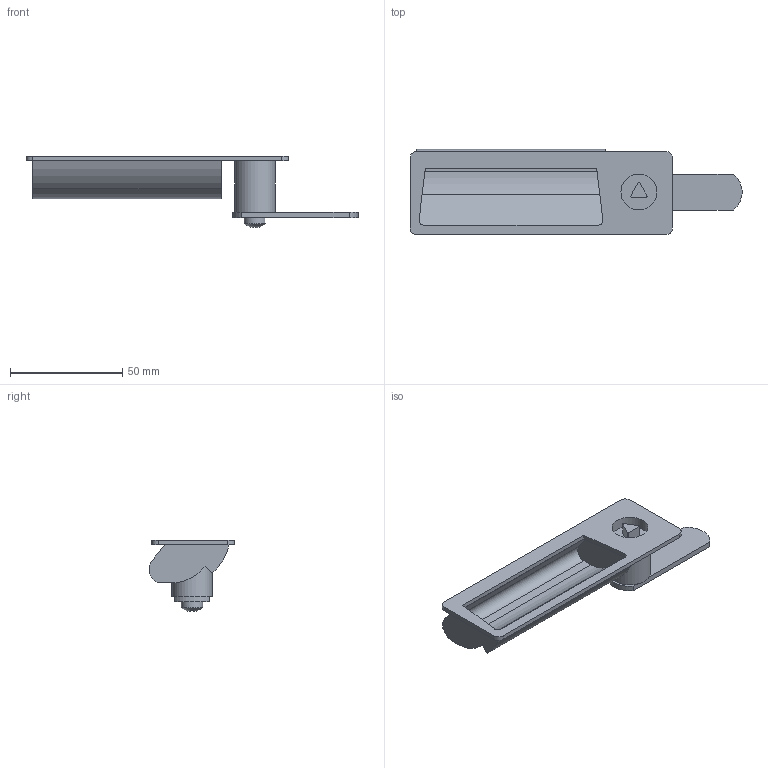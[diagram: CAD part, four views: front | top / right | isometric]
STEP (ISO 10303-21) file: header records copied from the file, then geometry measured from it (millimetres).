
FILE_DESCRIPTION( ( 'STEP AP203' ), '1' );
FILE_NAME( 'C:/Temp/Ganter_Step_05_03_2020/data/3_3/gn731_5/gn731_5_2/Latche with gripping tray GN 731.5-DK-0-46-2-SG (0-23).stp', '2020-03-12T11:49:29', ( 'License CC BY-ND 4.0' ), ( 'CADENAS' ), ' ', 'PARTsolutions', ' ' );
FILE_SCHEMA( ( 'CONFIG_CONTROL_DESIGN' ) );
Length unit declared in the file: millimetre
Products named in the file (3): Latche with gripping tray GN 731.5-DK-0-46-2-SG (0-23); _Latche with gripping tray GN 731.5-DK-0-46-2-SG (0)_1; _Latche with gripping tray GN 731.5-DK-0-46-2-SG (0-23)_2
Assembly tree (2 placements, depth 2):
  Latche with gripping tray GN 731.5-DK-0-46-2-SG (0-23)
    _Latche with gripping tray GN 731.5-DK-0-46-2-SG (0)_1
    _Latche with gripping tray GN 731.5-DK-0-46-2-SG (0-23)_2
Bounding box: 147.96 x 38 x 31.88 mm (x, y, z)
Volume: 24295.6 mm3; surface area: 20481.5 mm2
Topology: 2 solids, 2 shells, 87 faces, 221 edges, 144 vertices
Faces by surface type: plane 63, cylinder 23, sphere 1
Full cylindrical faces by diameter (mm): 9.5 x1, 16 x1, 18 x1
Entity records: 2687 total; most frequent: DIRECTION 461, CARTESIAN_POINT 445, ORIENTED_EDGE 428, EDGE_CURVE 214, AXIS2_PLACEMENT_3D 157, LINE 147, VECTOR 147, VERTEX_POINT 141
